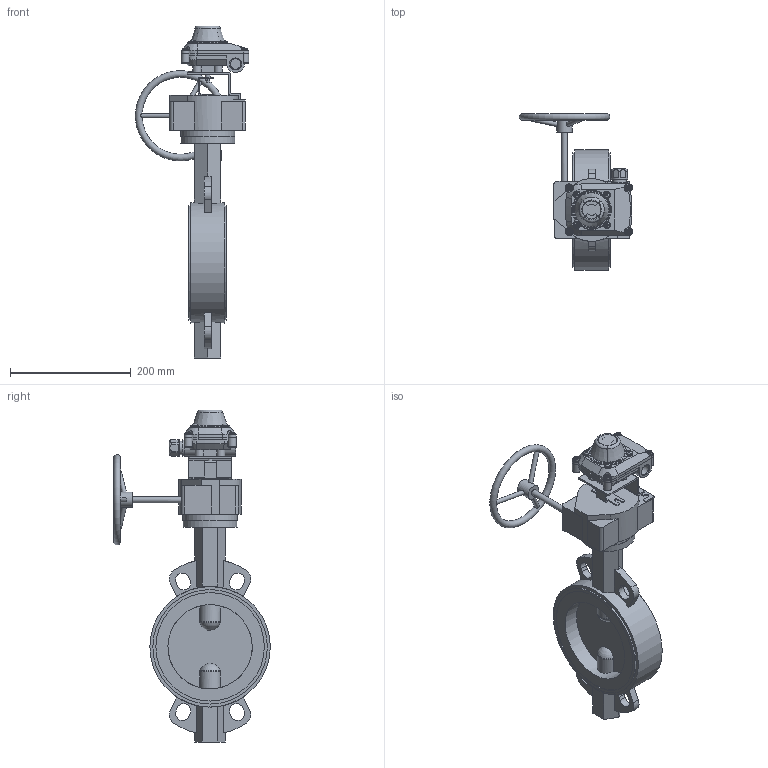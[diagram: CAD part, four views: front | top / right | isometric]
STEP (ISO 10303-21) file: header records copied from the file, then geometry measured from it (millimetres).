
FILE_DESCRIPTION(('STEP AP203'), '1');
FILE_NAME('3D_200-150-16-Ï.02', '', ('UNSPECIFIED'), ('UNSPECIFIED'), 'C3D Converter', 'C3D Toolkit', '');
FILE_SCHEMA(('CONFIG_CONTROL_DESIGN'));
Length unit declared in the file: millimetre
Bounding box: 187.98 x 259.98 x 551 mm (x, y, z)
Volume: 2675221.3 mm3; surface area: 351811.7 mm2
Topology: 4 solids, 8 shells, 1521 faces, 4351 edges, 2910 vertices
Faces by surface type: plane 1226, cylinder 188, torus 54, cone 45, bspline 8
Full cylindrical faces by diameter (mm): 4.917 x4, 6 x8, 7.368 x3, 8 x11, 10 x8, 10.026 x1, 13.5 x2, 16 x1, 17.294 x1, 18 x1, 19 x2, 22 x1, 25.064 x1, 27 x2, 32 x1, 61.5 x1, 90 x2, 140 x2, 180 x2, 190 x2, 200 x1
Entity records: 72742 total; most frequent: CARTESIAN_POINT 20900, ORIENTED_EDGE 8532, DIRECTION 7695, EDGE_CURVE 4266, LINE 3319, VECTOR 3319, VERTEX_POINT 2907, AXIS2_PLACEMENT_3D 2188
